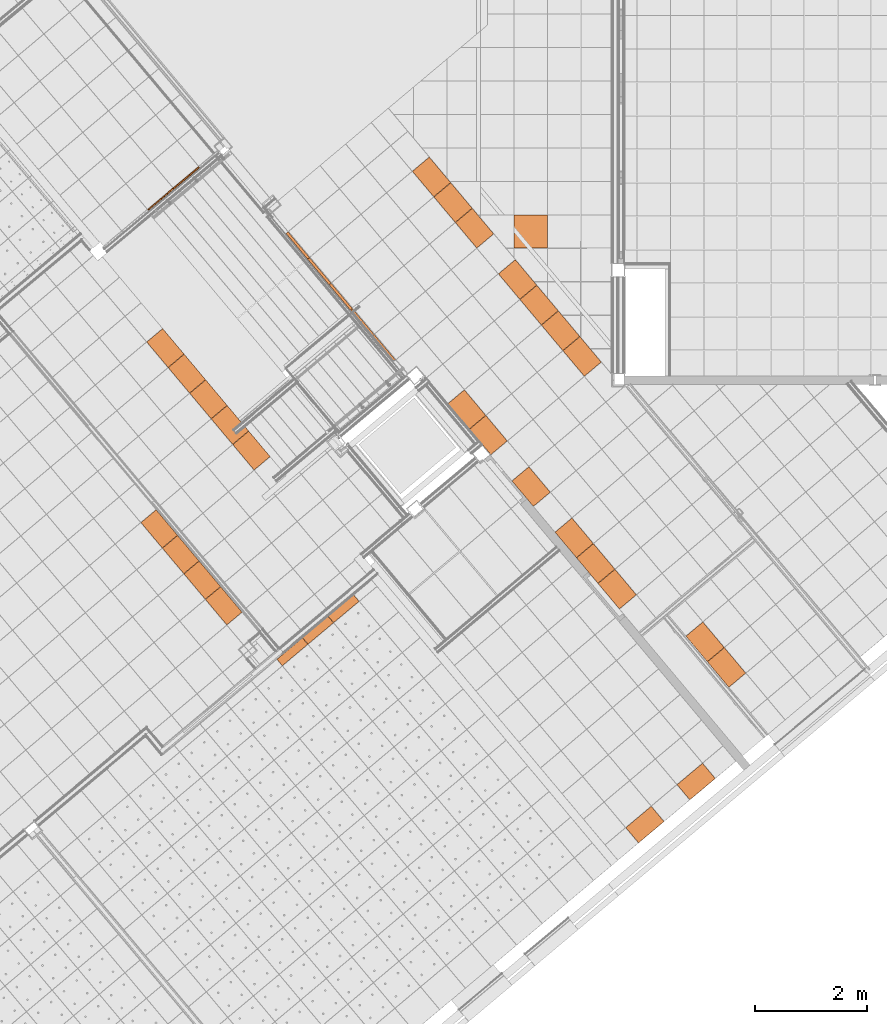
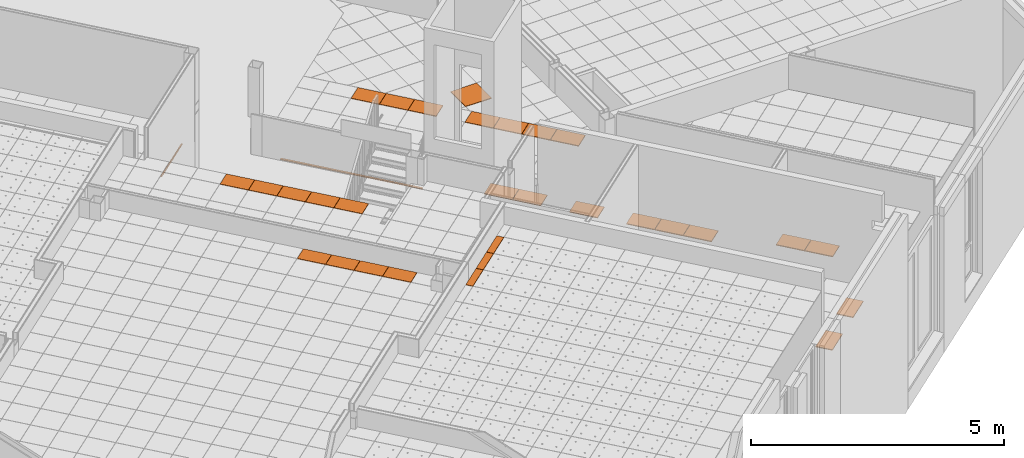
# One storey, part 214 of 338: 37 proxies, 8 elements without a shape of their own.
"""IFC2X3 building model written with IfcOpenShell, lengths in millimetres."""

from ifc_helpers import new_model, entity, si_unit, converted_unit, derived_unit, money_unit, direction, frame, origin_with_axes, place, context, subcontext, project, spatial, faceted_brep, source, transform, mapped, material, type_object, type_shapes, element, aggregate, save


model = new_model("IFC2X3")

# Units and contexts
model_context = context("Model", 3, precision=0.01, world=origin_with_axes(), true_north=direction((0.0, 1.0)))
plan_context = context("Plan", 3, precision=0.01, world=origin_with_axes(), true_north=direction((0.0, 1.0)))
body_context = subcontext(model_context, "Body", "Model", "MODEL_VIEW")
ifc_project = project(units=[si_unit("LENGTHUNIT", "METRE", prefix="MILLI"), si_unit("AREAUNIT", "SQUARE_METRE"), si_unit("VOLUMEUNIT", "CUBIC_METRE"), converted_unit("PLANEANGLEUNIT", "DEGREE", entity("IfcPlaneAngleMeasure", 0.0174532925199), si_unit("PLANEANGLEUNIT", "RADIAN"), dimensions=[0, 0, 0, 0, 0, 0, 0]), money_unit("EUR"), converted_unit("TIMEUNIT", "Year", entity("IfcTimeMeasure", 31556926.0), si_unit("TIMEUNIT", "SECOND"), dimensions=[0, 0, 1, 0, 0, 0, 0]), si_unit("MASSUNIT", "GRAM", prefix="KILO"), si_unit("THERMODYNAMICTEMPERATUREUNIT", "DEGREE_CELSIUS"), si_unit("LUMINOUSINTENSITYUNIT", "LUMEN"), si_unit("ENERGYUNIT", "JOULE", prefix="MEGA"), derived_unit("THERMALCONDUCTANCEUNIT", [(si_unit("POWERUNIT", "WATT"), 1), (si_unit("LENGTHUNIT", "METRE"), -1), (si_unit("THERMODYNAMICTEMPERATUREUNIT", "KELVIN"), -1)]), derived_unit("SPECIFICHEATCAPACITYUNIT", [(si_unit("ENERGYUNIT", "JOULE"), 1), (si_unit("MASSUNIT", "GRAM", prefix="KILO"), -1), (si_unit("THERMODYNAMICTEMPERATUREUNIT", "KELVIN"), -1)]), derived_unit("MASSDENSITYUNIT", [(si_unit("MASSUNIT", "GRAM", prefix="KILO"), 1), (si_unit("VOLUMEUNIT", "CUBIC_METRE"), -1)])], contexts=[model_context, plan_context])

# Site, building, storey
site_placement = place(None, origin_with_axes())
site = spatial("IfcSite", under=ifc_project, at=site_placement, Name="Fortuinstraat Woensdrecht", CompositionType="ELEMENT")
building_placement = place(site_placement, origin_with_axes())
building = spatial("IfcBuilding", under=site, at=building_placement, Name="IKC Fortuna", CompositionType="ELEMENT")
storey_placement = place(building_placement, origin_with_axes())
storey = spatial("IfcBuildingStorey", under=building, at=storey_placement, Name="00 begane grond", CompositionType="ELEMENT", Elevation=0.0)

# Covering, proxies
covering_type = type_object("IfcCoveringType", Name="Curtain Wall Type", PredefinedType="CEILING")
covering_1_placement = place(storey_placement, frame((17937.1227498, -4186.27868692, 4660.0), z_axis=(0.0, 0.0, 1.0), x_axis=(1.0, 0.0, 0.0)))
covering_1 = element("IfcCovering", 1, at=covering_1_placement, inside=storey, type_object=covering_type, Name="45_Plafondafwerking_P02", PredefinedType="CEILING")
ifc_material = material(Name="Gipsplaat")
building_element_proxy_type_1 = type_object("IfcBuildingElementProxyType", Name="Distinct Panel 360 x 600 x 20", PredefinedType="NOTDEFINED")
shared_shape_1 = source(origin_with_axes(), body_context, "Body", "Brep", [
    faceted_brep([(242.243727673, 2.50000936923, -10.0), (597.499997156, 2.50000349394, -10.0), (597.499997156, 2.50000349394, 10.0), (242.243727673, 2.50000936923, 10.0), (242.243731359, 597.499993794, -10.0), (597.500000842, 597.499987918, -10.0), (597.500000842, 597.499987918, 10.0), (242.243731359, 597.499993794, 10.0)], [[[0, 1, 2, 3]], [[0, 4, 5, 1]], [[1, 5, 6, 2]], [[3, 2, 6, 7]], [[4, 0, 3, 7]], [[5, 4, 7, 6]]]),
])
proxy_1_placement = place(covering_1_placement, frame((-551.233255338, 3270.74845323, 0.0), z_axis=(0.0, 0.0, 1.0), x_axis=(1.0, 0.0, 0.0)))
proxy_1 = element("IfcBuildingElementProxy", 2, at=proxy_1_placement, type_object=building_element_proxy_type_1, material=ifc_material, Name="__Panel-D", context=body_context, shape_type="MappedRepresentation", body=[
    mapped(shared_shape_1, transform((128.804099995, 499.70179874, 0.0), x_axis=(-0.766044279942, -0.642787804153, 0.0), y_axis=(0.642787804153, -0.766044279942, 0.0), z_axis=(0.0, 0.0, 1.0))),
])
shared_shape_2 = source(origin_with_axes(), body_context, "Body", "Brep", [
    faceted_brep([(242.243728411, 2.50000093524, -10.0), (597.500004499, 2.50000293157, -10.0), (597.500004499, 2.50000293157, 10.0), (242.243728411, 2.50000093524, 10.0), (242.243738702, 597.499993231, -10.0), (597.499992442, 597.500000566, -10.0), (597.499992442, 597.500000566, 10.0), (242.243738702, 597.499993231, 10.0)], [[[0, 1, 2, 3]], [[0, 4, 5, 1]], [[1, 5, 6, 2]], [[3, 2, 6, 7]], [[4, 0, 3, 7]], [[5, 4, 7, 6]]]),
])
proxy_2_placement = place(covering_1_placement, frame((-165.560572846, 2811.12188526, 0.0), z_axis=(0.0, 0.0, 1.0), x_axis=(1.0, 0.0, 0.0)))
proxy_2 = element("IfcBuildingElementProxy", 3, at=proxy_2_placement, type_object=building_element_proxy_type_1, material=ifc_material, Name="__Panel-D", context=body_context, shape_type="MappedRepresentation", body=[
    mapped(shared_shape_2, transform((128.804099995, 499.70179874, 0.0), x_axis=(-0.766044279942, -0.642787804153, 0.0), y_axis=(0.642787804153, -0.766044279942, 0.0), z_axis=(0.0, 0.0, 1.0))),
])
shared_shape_3 = source(origin_with_axes(), body_context, "Body", "Brep", [
    faceted_brep([(242.243725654, 2.49999764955, -10.0), (597.500001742, 2.49999964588, -10.0), (597.500001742, 2.49999964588, 10.0), (242.243725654, 2.49999764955, 10.0), (242.243728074, 597.499996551, -10.0), (597.499997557, 597.499990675, -10.0), (597.499997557, 597.499990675, 10.0), (242.243728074, 597.499996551, 10.0)], [[[0, 1, 2, 3]], [[0, 4, 5, 1]], [[1, 5, 6, 2]], [[3, 2, 6, 7]], [[4, 0, 3, 7]], [[5, 4, 7, 6]]]),
])
type_shapes(building_element_proxy_type_1, [shared_shape_1, shared_shape_2, shared_shape_3])
proxy_3_placement = place(covering_1_placement, frame((605.784792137, 1891.86874933, 0.0), z_axis=(0.0, 0.0, 1.0), x_axis=(1.0, 0.0, 0.0)))
proxy_3 = element("IfcBuildingElementProxy", 4, at=proxy_3_placement, type_object=building_element_proxy_type_1, material=ifc_material, Name="__Panel-D", context=body_context, shape_type="MappedRepresentation", body=[
    mapped(shared_shape_3, transform((128.804099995, 499.70179874, 0.0), x_axis=(-0.766044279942, -0.642787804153, 0.0), y_axis=(0.642787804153, -0.766044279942, 0.0), z_axis=(0.0, 0.0, 1.0))),
])
proxy_4_placement = place(covering_1_placement, frame((220.112109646, 2351.4953173, 0.0), z_axis=(0.0, 0.0, 1.0), x_axis=(1.0, 0.0, 0.0)))
proxy_4 = element("IfcBuildingElementProxy", 5, at=proxy_4_placement, type_object=building_element_proxy_type_1, material=ifc_material, Name="__Panel-D", context=body_context, shape_type="MappedRepresentation", body=[
    mapped(shared_shape_3, transform((128.804099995, 499.70179874, 0.0), x_axis=(-0.766044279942, -0.642787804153, 0.0), y_axis=(0.642787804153, -0.766044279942, 0.0), z_axis=(0.0, 0.0, 1.0))),
])
aggregate(covering_1, [proxy_2, proxy_3, proxy_4, proxy_1])

# Covering, proxy
covering_2_placement = place(storey_placement, frame((23508.1808374, 14013.4616156, 3010.0), z_axis=(0.0, 0.0, 1.0), x_axis=(1.0, 0.0, 0.0)))
covering_2 = element("IfcCovering", 6, at=covering_2_placement, inside=storey, type_object=covering_type, Name="45_Plafondafwerking_P04", PredefinedType="CEILING")
building_element_proxy_type_2 = type_object("IfcBuildingElementProxyType", Name="Distinct Panel 600 x 600 x 20", PredefinedType="NOTDEFINED")
shared_shape_4 = source(origin_with_axes(), body_context, "Body", "Brep", [
    faceted_brep([(-2.49999999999, 2.5, -10.0), (-2.49999999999, 2.5, 10.0), (-597.5, 2.49999999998, 10.0), (-597.5, 2.49999999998, -10.0), (-2.50000000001, 597.5, -10.0), (-2.50000000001, 597.5, 10.0), (-597.5, 597.5, 10.0), (-597.5, 597.5, -10.0)], [[[0, 1, 2, 3]], [[4, 5, 1, 0]], [[1, 5, 6, 2]], [[3, 2, 6, 7]], [[0, 3, 7, 4]], [[7, 6, 5, 4]]]),
])
type_shapes(building_element_proxy_type_2, [shared_shape_4])
proxy_5_placement = place(covering_2_placement, frame((536.745764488, -9600.0, 0.0), z_axis=(0.0, 0.0, 1.0), x_axis=(1.0, 0.0, 0.0)))
proxy_5 = element("IfcBuildingElementProxy", 7, at=proxy_5_placement, type_object=building_element_proxy_type_2, material=ifc_material, Name="__Panel-D", context=body_context, shape_type="MappedRepresentation", body=[
    mapped(shared_shape_4, transform((-300.0, 300.0, 0.0), x_axis=(-1.0, 0.0, 0.0), y_axis=(0.0, -1.0, 0.0), z_axis=(0.0, 0.0, 1.0))),
])
aggregate(covering_2, [proxy_5])

# Covering, proxies
covering_3_placement = place(storey_placement, frame((27661.2988988, -1812.1109843, 2810.0), z_axis=(0.0, 0.0, 1.0), x_axis=(1.0, 0.0, 0.0)))
covering_3 = element("IfcCovering", 8, at=covering_3_placement, inside=storey, type_object=covering_type, Name="45_Plafondafwerking_P02 gec", PredefinedType="CEILING")
building_element_proxy_type_3 = type_object("IfcBuildingElementProxyType", Name="Distinct Panel 400 x 600 x 20", PredefinedType="NOTDEFINED")
shared_shape_5 = source(origin_with_axes(), body_context, "Body", "Brep", [
    faceted_brep([(-597.500008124, 2.50000101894, -10.0), (-597.500008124, 2.50000101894, 10.0), (-597.499997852, 597.499992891, 10.0), (-597.499997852, 597.499992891, -10.0), (-202.482073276, 2.50000918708, -10.0), (-202.482073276, 2.50000918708, 10.0), (-202.48205484, 597.49999421, 10.0), (-202.48205484, 597.49999421, -10.0)], [[[0, 1, 2, 3]], [[4, 5, 1, 0]], [[1, 5, 6, 2]], [[3, 2, 6, 7]], [[0, 3, 7, 4]], [[7, 6, 5, 4]]]),
])
proxy_6_placement = place(covering_3_placement, frame((-490.086076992, -1127.24819046, 0.0), z_axis=(0.0, 0.0, 1.0), x_axis=(1.0, 0.0, 0.0)))
proxy_6 = element("IfcBuildingElementProxy", 9, at=proxy_6_placement, type_object=building_element_proxy_type_3, material=ifc_material, Name="__Panel-D", context=body_context, shape_type="MappedRepresentation", body=[
    mapped(shared_shape_5, transform((-499.247184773, -27.2960216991, 0.0), x_axis=(-0.766044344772, -0.642787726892, 0.0), y_axis=(0.642787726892, -0.766044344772, 0.0), z_axis=(0.0, 0.0, 1.0))),
])
proxy_7_placement = place(covering_3_placement, frame((-104.413444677, -1586.87480053, 0.0), z_axis=(0.0, 0.0, 1.0), x_axis=(1.0, 0.0, 0.0)))
proxy_7 = element("IfcBuildingElementProxy", 10, at=proxy_7_placement, type_object=building_element_proxy_type_3, material=ifc_material, Name="__Panel-D", context=body_context, shape_type="MappedRepresentation", body=[
    mapped(shared_shape_5, transform((-499.247180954, -27.2960184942, 0.0), x_axis=(-0.766044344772, -0.642787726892, 0.0), y_axis=(0.642787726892, -0.766044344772, 0.0), z_axis=(0.0, 0.0, 1.0))),
])
aggregate(covering_3, [proxy_6, proxy_7])

covering_4_placement = place(storey_placement, frame((26804.4884552, -1724.43837499, 3010.0), z_axis=(0.0, 0.0, 1.0), x_axis=(1.0, 0.0, 0.0)))
covering_4 = element("IfcCovering", 11, at=covering_4_placement, inside=storey, type_object=covering_type, Name="45_Plafondafwerking_P04", PredefinedType="CEILING")
shared_shape_6 = source(origin_with_axes(), body_context, "Body", "Brep", [
    faceted_brep([(597.50000446, 597.500001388, -10.0), (202.525693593, 597.499996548, -10.0), (202.525693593, 597.499996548, 10.0), (597.50000446, 597.500001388, 10.0), (597.499994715, 2.49999890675, -10.0), (202.525713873, 2.49999669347, -10.0), (202.525713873, 2.49999669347, 10.0), (597.499994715, 2.49999890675, 10.0)], [[[0, 1, 2, 3]], [[0, 4, 5, 1]], [[1, 5, 6, 2]], [[3, 2, 6, 7]], [[4, 0, 3, 7]], [[5, 4, 7, 6]]]),
])
proxy_8_placement = place(covering_4_placement, frame((-1208.64734708, -270.866258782, 0.0), z_axis=(0.0, 0.0, 1.0), x_axis=(1.0, 0.0, 0.0)))
proxy_8 = element("IfcBuildingElementProxy", 12, at=proxy_8_placement, type_object=building_element_proxy_type_3, material=ifc_material, Name="__Panel-D", context=body_context, shape_type="MappedRepresentation", body=[
    mapped(shared_shape_6, transform((-113.591415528, -486.93662178, 0.0), x_axis=(0.766044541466, 0.642787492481, 0.0), y_axis=(-0.642787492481, 0.766044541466, 0.0), z_axis=(0.0, 0.0, 1.0))),
])
proxy_9_placement = place(covering_4_placement, frame((-1979.99234045, 648.387188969, 0.0), z_axis=(0.0, 0.0, 1.0), x_axis=(1.0, 0.0, 0.0)))
proxy_9 = element("IfcBuildingElementProxy", 13, at=proxy_9_placement, type_object=building_element_proxy_type_3, material=ifc_material, Name="__Panel-D", context=body_context, shape_type="MappedRepresentation", body=[
    mapped(shared_shape_6, transform((-113.591413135, -486.936619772, 0.0), x_axis=(0.766044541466, 0.642787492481, 0.0), y_axis=(-0.642787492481, 0.766044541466, 0.0), z_axis=(0.0, 0.0, 1.0))),
])
proxy_10_placement = place(covering_4_placement, frame((-1594.31984496, 188.760464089, 0.0), z_axis=(0.0, 0.0, 1.0), x_axis=(1.0, 0.0, 0.0)))
proxy_10 = element("IfcBuildingElementProxy", 14, at=proxy_10_placement, type_object=building_element_proxy_type_3, material=ifc_material, Name="__Panel-D", context=body_context, shape_type="MappedRepresentation", body=[
    mapped(shared_shape_6, transform((-113.591413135, -486.936619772, 0.0), x_axis=(0.766044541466, 0.642787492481, 0.0), y_axis=(-0.642787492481, 0.766044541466, 0.0), z_axis=(0.0, 0.0, 1.0))),
])
proxy_11_placement = place(covering_4_placement, frame((-2751.33731089, 1567.64065595, 0.0), z_axis=(0.0, 0.0, 1.0), x_axis=(1.0, 0.0, 0.0)))
proxy_11 = element("IfcBuildingElementProxy", 15, at=proxy_11_placement, type_object=building_element_proxy_type_3, material=ifc_material, Name="__Panel-D", context=body_context, shape_type="MappedRepresentation", body=[
    mapped(shared_shape_6, transform((-113.591433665, -486.936636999, 0.0), x_axis=(0.766044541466, 0.642787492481, 0.0), y_axis=(-0.642787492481, 0.766044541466, 0.0), z_axis=(0.0, 0.0, 1.0))),
])
shared_shape_7 = source(origin_with_axes(), body_context, "Body", "Brep", [
    faceted_brep([(397.517959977, 597.499994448, -10.0), (2.49999497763, 597.500000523, -10.0), (2.49999497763, 597.500000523, 10.0), (397.517959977, 597.499994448, 10.0), (397.517917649, 2.50000161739, -10.0), (2.49999768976, 2.50001163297, -10.0), (2.49999768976, 2.50001163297, 10.0), (397.517917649, 2.50000161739, 10.0)], [[[0, 1, 2, 3]], [[0, 4, 5, 1]], [[1, 5, 6, 2]], [[3, 2, 6, 7]], [[4, 0, 3, 7]], [[5, 4, 7, 6]]]),
])
type_shapes(building_element_proxy_type_3, [shared_shape_5, shared_shape_6, shared_shape_7])
proxy_12_placement = place(covering_4_placement, frame((-4537.09477071, 7118.41115304, 0.0), z_axis=(0.0, 0.0, 1.0), x_axis=(1.0, 0.0, 0.0)))
proxy_12 = element("IfcBuildingElementProxy", 16, at=proxy_12_placement, type_object=building_element_proxy_type_3, material=ifc_material, Name="__Panel-D", context=body_context, shape_type="MappedRepresentation", body=[
    mapped(shared_shape_7, transform((39.6204662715, -358.376628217, 0.0), x_axis=(0.766044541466, 0.642787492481, 0.0), y_axis=(-0.642787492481, 0.766044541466, 0.0), z_axis=(0.0, 0.0, 1.0))),
])
proxy_13_placement = place(covering_4_placement, frame((-2994.40479597, 5279.90424747, 0.0), z_axis=(0.0, 0.0, 1.0), x_axis=(1.0, 0.0, 0.0)))
proxy_13 = element("IfcBuildingElementProxy", 17, at=proxy_13_placement, type_object=building_element_proxy_type_3, material=ifc_material, Name="__Panel-D", context=body_context, shape_type="MappedRepresentation", body=[
    mapped(shared_shape_7, transform((39.6204734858, -358.376622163, 0.0), x_axis=(0.766044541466, 0.642787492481, 0.0), y_axis=(-0.642787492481, 0.766044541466, 0.0), z_axis=(0.0, 0.0, 1.0))),
])
proxy_14_placement = place(covering_4_placement, frame((-4151.42228244, 6658.78442211, 0.0), z_axis=(0.0, 0.0, 1.0), x_axis=(1.0, 0.0, 0.0)))
proxy_14 = element("IfcBuildingElementProxy", 18, at=proxy_14_placement, type_object=building_element_proxy_type_3, material=ifc_material, Name="__Panel-D", context=body_context, shape_type="MappedRepresentation", body=[
    mapped(shared_shape_7, transform((39.6204734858, -358.376622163, 0.0), x_axis=(0.766044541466, 0.642787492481, 0.0), y_axis=(-0.642787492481, 0.766044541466, 0.0), z_axis=(0.0, 0.0, 1.0))),
])
proxy_15_placement = place(covering_4_placement, frame((-3765.74978695, 6199.15769723, 0.0), z_axis=(0.0, 0.0, 1.0), x_axis=(1.0, 0.0, 0.0)))
proxy_15 = element("IfcBuildingElementProxy", 19, at=proxy_15_placement, type_object=building_element_proxy_type_3, material=ifc_material, Name="__Panel-D", context=body_context, shape_type="MappedRepresentation", body=[
    mapped(shared_shape_7, transform((39.6204734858, -358.376622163, 0.0), x_axis=(0.766044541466, 0.642787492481, 0.0), y_axis=(-0.642787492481, 0.766044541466, 0.0), z_axis=(0.0, 0.0, 1.0))),
])
proxy_16_placement = place(covering_4_placement, frame((-2608.73230048, 4820.27752259, 0.0), z_axis=(0.0, 0.0, 1.0), x_axis=(1.0, 0.0, 0.0)))
proxy_16 = element("IfcBuildingElementProxy", 20, at=proxy_16_placement, type_object=building_element_proxy_type_3, material=ifc_material, Name="__Panel-D", context=body_context, shape_type="MappedRepresentation", body=[
    mapped(shared_shape_7, transform((39.6204734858, -358.376622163, 0.0), x_axis=(0.766044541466, 0.642787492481, 0.0), y_axis=(-0.642787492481, 0.766044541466, 0.0), z_axis=(0.0, 0.0, 1.0))),
])
proxy_17_placement = place(covering_4_placement, frame((-2223.05980499, 4360.65079771, 0.0), z_axis=(0.0, 0.0, 1.0), x_axis=(1.0, 0.0, 0.0)))
proxy_17 = element("IfcBuildingElementProxy", 21, at=proxy_17_placement, type_object=building_element_proxy_type_3, material=ifc_material, Name="__Panel-D", context=body_context, shape_type="MappedRepresentation", body=[
    mapped(shared_shape_7, transform((39.6204734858, -358.376622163, 0.0), x_axis=(0.766044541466, 0.642787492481, 0.0), y_axis=(-0.642787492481, 0.766044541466, 0.0), z_axis=(0.0, 0.0, 1.0))),
])
proxy_18_placement = place(covering_4_placement, frame((-1837.38730951, 3901.02407283, 0.0), z_axis=(0.0, 0.0, 1.0), x_axis=(1.0, 0.0, 0.0)))
proxy_18 = element("IfcBuildingElementProxy", 22, at=proxy_18_placement, type_object=building_element_proxy_type_3, material=ifc_material, Name="__Panel-D", context=body_context, shape_type="MappedRepresentation", body=[
    mapped(shared_shape_7, transform((39.6204734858, -358.376622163, 0.0), x_axis=(0.766044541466, 0.642787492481, 0.0), y_axis=(-0.642787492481, 0.766044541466, 0.0), z_axis=(0.0, 0.0, 1.0))),
])
building_element_proxy_type_4 = type_object("IfcBuildingElementProxyType", Name="Distinct Panel 387 x 600 x 20", PredefinedType="NOTDEFINED")
shared_shape_8 = source(origin_with_axes(), body_context, "Body", "Brep", [
    faceted_brep([(597.5000071, 597.500003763, -10.0), (215.01747785, 597.500013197, -10.0), (215.01747785, 597.500013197, 10.0), (597.5000071, 597.500003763, 10.0), (597.499993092, 2.49998908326, -10.0), (215.017471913, 2.4999917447, -10.0), (215.017471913, 2.4999917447, 10.0), (597.499993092, 2.49998908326, 10.0)], [[[0, 1, 2, 3]], [[0, 4, 5, 1]], [[1, 5, 6, 2]], [[3, 2, 6, 7]], [[4, 0, 3, 7]], [[5, 4, 7, 6]]]),
])
type_shapes(building_element_proxy_type_4, [shared_shape_8])
proxy_19_placement = place(covering_4_placement, frame((-3903.57018991, 2950.53559169, 0.0), z_axis=(0.0, 0.0, 1.0), x_axis=(1.0, 0.0, 0.0)))
proxy_19 = element("IfcBuildingElementProxy", 23, at=proxy_19_placement, type_object=building_element_proxy_type_4, material=ifc_material, Name="__Panel-D", context=body_context, shape_type="MappedRepresentation", body=[
    mapped(shared_shape_8, transform((-118.376041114, -490.951398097, 0.0), x_axis=(0.766044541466, 0.642787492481, 0.0), y_axis=(-0.642787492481, 0.766044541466, 0.0), z_axis=(0.0, 0.0, 1.0))),
])
proxy_20_placement = place(covering_4_placement, frame((-3517.89769441, 2490.90886682, 0.0), z_axis=(0.0, 0.0, 1.0), x_axis=(1.0, 0.0, 0.0)))
proxy_20 = element("IfcBuildingElementProxy", 24, at=proxy_20_placement, type_object=building_element_proxy_type_4, material=ifc_material, Name="__Panel-D", context=body_context, shape_type="MappedRepresentation", body=[
    mapped(shared_shape_8, transform((-118.376041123, -490.951398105, 0.0), x_axis=(0.766044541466, 0.642787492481, 0.0), y_axis=(-0.642787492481, 0.766044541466, 0.0), z_axis=(0.0, 0.0, 1.0))),
])
building_element_proxy_type_5 = type_object("IfcBuildingElementProxyType", Name="Distinct Panel 52 x 600 x 20", PredefinedType="NOTDEFINED")
shared_shape_9 = source(origin_with_axes(), body_context, "Body", "Brep", [
    faceted_brep([(597.499995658, 597.499999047, -10.0), (550.016865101, 597.500008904, -10.0), (550.016865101, 597.500008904, 10.0), (597.499995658, 597.499999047, 10.0), (597.499995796, 2.4999992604, -10.0), (550.016870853, 2.50000440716, -10.0), (550.016870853, 2.50000440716, 10.0), (597.499995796, 2.4999992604, 10.0)], [[[0, 1, 2, 3]], [[0, 4, 5, 1]], [[1, 5, 6, 2]], [[3, 2, 6, 7]], [[4, 0, 3, 7]], [[5, 4, 7, 6]]]),
])
proxy_21_placement = place(covering_4_placement, frame((-6548.91966217, 5430.29015317, 0.0), z_axis=(0.0, 0.0, 1.0), x_axis=(1.0, 0.0, 0.0)))
proxy_21 = element("IfcBuildingElementProxy", 25, at=proxy_21_placement, type_object=building_element_proxy_type_5, material=ifc_material, Name="__Panel-D", context=body_context, shape_type="MappedRepresentation", body=[
    mapped(shared_shape_9, transform((-246.688266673, -598.618105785, 0.0), x_axis=(0.766044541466, 0.642787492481, 0.0), y_axis=(-0.642787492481, 0.766044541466, 0.0), z_axis=(0.0, 0.0, 1.0))),
])
proxy_22_placement = place(covering_4_placement, frame((-6934.59215765, 5889.91687805, 0.0), z_axis=(0.0, 0.0, 1.0), x_axis=(1.0, 0.0, 0.0)))
proxy_22 = element("IfcBuildingElementProxy", 26, at=proxy_22_placement, type_object=building_element_proxy_type_5, material=ifc_material, Name="__Panel-D", context=body_context, shape_type="MappedRepresentation", body=[
    mapped(shared_shape_9, transform((-246.688266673, -598.618105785, 0.0), x_axis=(0.766044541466, 0.642787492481, 0.0), y_axis=(-0.642787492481, 0.766044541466, 0.0), z_axis=(0.0, 0.0, 1.0))),
])
shared_shape_10 = source(origin_with_axes(), body_context, "Body", "Brep", [
    faceted_brep([(597.500001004, 597.499997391, -10.0), (550.016864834, 597.500011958, -10.0), (550.016864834, 597.500011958, 10.0), (597.500001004, 597.499997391, 10.0), (597.500001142, 2.49999760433, -10.0), (550.016861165, 2.49999623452, -10.0), (550.016861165, 2.49999623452, 10.0), (597.500001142, 2.49999760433, 10.0)], [[[0, 1, 2, 3]], [[0, 4, 5, 1]], [[1, 5, 6, 2]], [[3, 2, 6, 7]], [[4, 0, 3, 7]], [[5, 4, 7, 6]]]),
])
type_shapes(building_element_proxy_type_5, [shared_shape_9, shared_shape_10])
proxy_23_placement = place(covering_4_placement, frame((-5391.9021757, 4051.40997853, 0.0), z_axis=(0.0, 0.0, 1.0), x_axis=(1.0, 0.0, 0.0)))
proxy_23 = element("IfcBuildingElementProxy", 27, at=proxy_23_placement, type_object=building_element_proxy_type_5, material=ifc_material, Name="__Panel-D", context=body_context, shape_type="MappedRepresentation", body=[
    mapped(shared_shape_10, transform((-246.688266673, -598.618105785, 0.0), x_axis=(0.766044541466, 0.642787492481, 0.0), y_axis=(-0.642787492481, 0.766044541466, 0.0), z_axis=(0.0, 0.0, 1.0))),
])
proxy_24_placement = place(covering_4_placement, frame((-5777.57467119, 4511.03670341, 0.0), z_axis=(0.0, 0.0, 1.0), x_axis=(1.0, 0.0, 0.0)))
proxy_24 = element("IfcBuildingElementProxy", 28, at=proxy_24_placement, type_object=building_element_proxy_type_5, material=ifc_material, Name="__Panel-D", context=body_context, shape_type="MappedRepresentation", body=[
    mapped(shared_shape_10, transform((-246.688266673, -598.618105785, 0.0), x_axis=(0.766044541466, 0.642787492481, 0.0), y_axis=(-0.642787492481, 0.766044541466, 0.0), z_axis=(0.0, 0.0, 1.0))),
])
proxy_25_placement = place(covering_4_placement, frame((-6163.24716668, 4970.66342829, 0.0), z_axis=(0.0, 0.0, 1.0), x_axis=(1.0, 0.0, 0.0)))
proxy_25 = element("IfcBuildingElementProxy", 29, at=proxy_25_placement, type_object=building_element_proxy_type_5, material=ifc_material, Name="__Panel-D", context=body_context, shape_type="MappedRepresentation", body=[
    mapped(shared_shape_10, transform((-246.688266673, -598.618105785, 0.0), x_axis=(0.766044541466, 0.642787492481, 0.0), y_axis=(-0.642787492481, 0.766044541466, 0.0), z_axis=(0.0, 0.0, 1.0))),
])
aggregate(covering_4, [proxy_8, proxy_12, proxy_9, proxy_10, proxy_13, proxy_11, proxy_14, proxy_15, proxy_16, proxy_17, proxy_18, proxy_19, proxy_21, proxy_20, proxy_23, proxy_24, proxy_25, proxy_22])

covering_5_placement = place(storey_placement, frame((15581.2998521, 5435.5548951, 3210.0), z_axis=(0.0, 0.0, 1.0), x_axis=(1.0, 0.0, 0.0)))
covering_5 = element("IfcCovering", 30, at=covering_5_placement, inside=storey, type_object=covering_type, Name="45_Plafondafwerking_P02 v", PredefinedType="CEILING")
building_element_proxy_type_6 = type_object("IfcBuildingElementProxyType", Name="Distinct Panel 600 x 30 x 20", PredefinedType="NOTDEFINED")
shared_shape_11 = source(origin_with_axes(), body_context, "Body", "Brep", [
    faceted_brep([(-597.500005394, 2.49999903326, -10.0), (-597.500005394, 2.49999903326, 10.0), (-597.500008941, 27.4101366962, 10.0), (-597.500008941, 27.4101366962, -10.0), (-2.499999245, 2.49998852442, -10.0), (-2.499999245, 2.49998852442, 10.0), (-2.49999822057, 27.4101316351, 10.0), (-2.49999822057, 27.4101316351, -10.0)], [[[0, 1, 2, 3]], [[4, 5, 1, 0]], [[1, 5, 6, 2]], [[3, 2, 6, 7]], [[0, 3, 7, 4]], [[7, 6, 5, 4]]]),
])
type_shapes(building_element_proxy_type_6, [shared_shape_11])
proxy_26_placement = place(covering_5_placement, frame((2291.29502767, -55.0082314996, 0.0), z_axis=(0.0, 0.0, 1.0), x_axis=(1.0, 0.0, 0.0)))
proxy_26 = element("IfcBuildingElementProxy", 31, at=proxy_26_placement, type_object=building_element_proxy_type_6, material=ifc_material, Name="__Panel-D", context=body_context, shape_type="MappedRepresentation", body=[
    mapped(shared_shape_11, transform((-239.426237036, -181.380073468, 0.0), x_axis=(-0.766044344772, -0.642787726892, 0.0), y_axis=(0.642787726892, -0.766044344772, 0.0), z_axis=(0.0, 0.0, 1.0))),
])
proxy_27_placement = place(covering_5_placement, frame((1831.6684208, -440.680867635, 0.0), z_axis=(0.0, 0.0, 1.0), x_axis=(1.0, 0.0, 0.0)))
proxy_27 = element("IfcBuildingElementProxy", 32, at=proxy_27_placement, type_object=building_element_proxy_type_6, material=ifc_material, Name="__Panel-D", context=body_context, shape_type="MappedRepresentation", body=[
    mapped(shared_shape_11, transform((-239.426237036, -181.380073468, 0.0), x_axis=(-0.766044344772, -0.642787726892, 0.0), y_axis=(0.642787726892, -0.766044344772, 0.0), z_axis=(0.0, 0.0, 1.0))),
])
aggregate(covering_5, [proxy_26, proxy_27])

covering_6_placement = place(storey_placement, frame((19785.7448517, -11392.5753808, 4660.0), z_axis=(0.0, 0.0, 1.0), x_axis=(1.0, 0.0, 0.0)))
covering_6 = element("IfcCovering", 33, at=covering_6_placement, inside=storey, type_object=covering_type, Name="45_Plafondafwerking_P01", PredefinedType="CEILING")
building_element_proxy_type_7 = type_object("IfcBuildingElementProxyType", Name="600 x 155 x 20", PredefinedType="NOTDEFINED")
shared_shape_12 = source(origin_with_axes(), body_context, "Body", "Brep", [
    faceted_brep([(2.50000160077, 447.501420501, -10.0), (597.499995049, 447.501420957, -10.0), (597.499995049, 447.501420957, 10.0), (2.50000160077, 447.501420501, 10.0), (2.50000666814, 597.500000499, -10.0), (597.500000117, 597.500000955, -10.0), (597.500000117, 597.500000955, 10.0), (2.50000666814, 597.500000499, 10.0)], [[[0, 1, 2, 3]], [[0, 4, 5, 1]], [[1, 5, 6, 2]], [[3, 2, 6, 7]], [[4, 0, 3, 7]], [[5, 4, 7, 6]]]),
])
type_shapes(building_element_proxy_type_7, [shared_shape_12])
proxy_28_placement = place(covering_6_placement, frame((-12.5554565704, 8273.90851459, 0.0), z_axis=(0.0, 0.0, 1.0), x_axis=(1.0, 0.0, 0.0)))
proxy_28 = element("IfcBuildingElementProxy", 34, at=proxy_28_placement, type_object=building_element_proxy_type_7, material=ifc_material, Name="__600x627 Rockfon Krios", context=body_context, shape_type="MappedRepresentation", body=[
    mapped(shared_shape_12, transform((-106.043798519, 593.095019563, 0.0), x_axis=(-0.766044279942, -0.642787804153, 0.0), y_axis=(0.642787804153, -0.766044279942, 0.0), z_axis=(0.0, 0.0, 1.0))),
])
proxy_29_placement = place(covering_6_placement, frame((906.69767936, 9045.25387958, 0.0), z_axis=(0.0, 0.0, 1.0), x_axis=(1.0, 0.0, 0.0)))
proxy_29 = element("IfcBuildingElementProxy", 35, at=proxy_29_placement, type_object=building_element_proxy_type_7, material=ifc_material, Name="__600x636 Rockfon Krios", context=body_context, shape_type="MappedRepresentation", body=[
    mapped(shared_shape_12, transform((-106.043798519, 593.095019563, 0.0), x_axis=(-0.766044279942, -0.642787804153, 0.0), y_axis=(0.642787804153, -0.766044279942, 0.0), z_axis=(0.0, 0.0, 1.0))),
])
proxy_30_placement = place(covering_6_placement, frame((447.071111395, 8659.58119708, 0.0), z_axis=(0.0, 0.0, 1.0), x_axis=(1.0, 0.0, 0.0)))
proxy_30 = element("IfcBuildingElementProxy", 36, at=proxy_30_placement, type_object=building_element_proxy_type_7, material=ifc_material, Name="__600x646 Rockfon Krios", context=body_context, shape_type="MappedRepresentation", body=[
    mapped(shared_shape_12, transform((-106.043798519, 593.095019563, 0.0), x_axis=(-0.766044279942, -0.642787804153, 0.0), y_axis=(0.642787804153, -0.766044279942, 0.0), z_axis=(0.0, 0.0, 1.0))),
])
aggregate(covering_6, [proxy_28, proxy_29, proxy_30])

covering_7_placement = place(storey_placement, frame((23826.4460301, -4357.43121765, 2810.0), z_axis=(0.0, 0.0, 1.0), x_axis=(1.0, 0.0, 0.0)))
covering_7 = element("IfcCovering", 37, at=covering_7_placement, inside=storey, type_object=covering_type, Name="45_Plafondafwerking_P02", PredefinedType="CEILING")
building_element_proxy_type_8 = type_object("IfcBuildingElementProxyType", Name="Distinct Panel 600 x 361 x 20", PredefinedType="NOTDEFINED")
shared_shape_13 = source(origin_with_axes(), body_context, "Body", "Brep", [
    faceted_brep([(2.49999782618, 2.49999313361, -10.0), (597.499986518, 2.50000285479, -10.0), (597.499986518, 2.50000285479, 10.0), (2.49999782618, 2.49999313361, 10.0), (2.49999973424, 358.169679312, -10.0), (597.499996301, 358.169682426, -10.0), (597.499996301, 358.169682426, 10.0), (2.49999973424, 358.169679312, 10.0)], [[[0, 1, 2, 3]], [[0, 4, 5, 1]], [[1, 5, 6, 2]], [[3, 2, 6, 7]], [[4, 0, 3, 7]], [[5, 4, 7, 6]]]),
])
type_shapes(building_element_proxy_type_8, [shared_shape_13])
proxy_31_placement = place(covering_7_placement, frame((2266.0373989, -1858.57876936, 0.0), z_axis=(0.0, 0.0, 1.0), x_axis=(1.0, 0.0, 0.0)))
proxy_31 = element("IfcBuildingElementProxy", 38, at=proxy_31_placement, type_object=building_element_proxy_type_8, material=ifc_material, Name="__Panel-D", context=body_context, shape_type="MappedRepresentation", body=[
    mapped(shared_shape_13, transform((113.8962489, 330.980813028, 0.0), x_axis=(-0.766044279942, -0.642787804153, 0.0), y_axis=(0.642787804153, -0.766044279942, 0.0), z_axis=(0.0, 0.0, 1.0))),
])
proxy_32_placement = place(covering_7_placement, frame((3185.29053484, -1087.23340437, 0.0), z_axis=(0.0, 0.0, 1.0), x_axis=(1.0, 0.0, 0.0)))
proxy_32 = element("IfcBuildingElementProxy", 39, at=proxy_32_placement, type_object=building_element_proxy_type_8, material=ifc_material, Name="__Panel-D", context=body_context, shape_type="MappedRepresentation", body=[
    mapped(shared_shape_13, transform((113.8962489, 330.980813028, 0.0), x_axis=(-0.766044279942, -0.642787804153, 0.0), y_axis=(0.642787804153, -0.766044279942, 0.0), z_axis=(0.0, 0.0, 1.0))),
])
aggregate(covering_7, [proxy_31, proxy_32])

covering_8_placement = place(storey_placement, frame((19821.8074512, -1204.73183435, 4460.0), z_axis=(0.0, 0.0, 1.0), x_axis=(1.0, 0.0, 0.0)))
covering_8 = element("IfcCovering", 40, at=covering_8_placement, inside=storey, type_object=covering_type, Name="45_Plafondafwerking_P04", PredefinedType="CEILING")
building_element_proxy_type_9 = type_object("IfcBuildingElementProxyType", Name="Distinct Panel 378 x 600 x 20", PredefinedType="NOTDEFINED")
shared_shape_14 = source(origin_with_axes(), body_context, "Body", "Brep", [
    faceted_brep([(-375.502349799, 2.49998639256, -10.0), (-375.502349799, 2.49998639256, 10.0), (-375.502361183, 597.500003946, 10.0), (-375.502361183, 597.500003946, -10.0), (-2.50000103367, 2.50000271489, -10.0), (-2.50000103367, 2.50000271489, 10.0), (-2.49999641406, 597.50000684, 10.0), (-2.49999641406, 597.50000684, -10.0)], [[[0, 1, 2, 3]], [[4, 5, 1, 0]], [[1, 5, 6, 2]], [[3, 2, 6, 7]], [[0, 3, 7, 4]], [[7, 6, 5, 4]]]),
])
proxy_33_placement = place(covering_8_placement, frame((-2325.11186574, 3531.71020388, 0.0), z_axis=(0.0, 0.0, 1.0), x_axis=(1.0, 0.0, 0.0)))
proxy_33 = element("IfcBuildingElementProxy", 41, at=proxy_33_placement, type_object=building_element_proxy_type_9, material=ifc_material, Name="__Panel-D", context=body_context, shape_type="MappedRepresentation", body=[
    mapped(shared_shape_14, transform((-337.619601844, 108.325665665, 0.0), x_axis=(-0.766044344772, -0.642787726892, 0.0), y_axis=(0.642787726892, -0.766044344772, 0.0), z_axis=(0.0, 0.0, 1.0))),
])
proxy_34_placement = place(covering_8_placement, frame((-1553.76659347, 2612.45699015, 0.0), z_axis=(0.0, 0.0, 1.0), x_axis=(1.0, 0.0, 0.0)))
proxy_34 = element("IfcBuildingElementProxy", 42, at=proxy_34_placement, type_object=building_element_proxy_type_9, material=ifc_material, Name="__Panel-D", context=body_context, shape_type="MappedRepresentation", body=[
    mapped(shared_shape_14, transform((-337.619601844, 108.325665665, 0.0), x_axis=(-0.766044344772, -0.642787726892, 0.0), y_axis=(0.642787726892, -0.766044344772, 0.0), z_axis=(0.0, 0.0, 1.0))),
])
proxy_35_placement = place(covering_8_placement, frame((-1168.09395733, 2152.83038329, 0.0), z_axis=(0.0, 0.0, 1.0), x_axis=(1.0, 0.0, 0.0)))
proxy_35 = element("IfcBuildingElementProxy", 43, at=proxy_35_placement, type_object=building_element_proxy_type_9, material=ifc_material, Name="__Panel-D", context=body_context, shape_type="MappedRepresentation", body=[
    mapped(shared_shape_14, transform((-337.619601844, 108.325665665, 0.0), x_axis=(-0.766044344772, -0.642787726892, 0.0), y_axis=(0.642787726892, -0.766044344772, 0.0), z_axis=(0.0, 0.0, 1.0))),
])
shared_shape_15 = source(origin_with_axes(), body_context, "Body", "Brep", [
    faceted_brep([(-375.502351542, 2.49998784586, -10.0), (-375.502351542, 2.49998784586, 10.0), (-375.502369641, 597.499996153, 10.0), (-375.502369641, 597.499996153, -10.0), (-2.50000355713, 2.50000416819, -10.0), (-2.50000355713, 2.50000416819, 10.0), (-2.50000565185, 597.499999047, 10.0), (-2.50000565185, 597.499999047, -10.0)], [[[0, 1, 2, 3]], [[4, 5, 1, 0]], [[1, 5, 6, 2]], [[3, 2, 6, 7]], [[0, 3, 7, 4]], [[7, 6, 5, 4]]]),
])
type_shapes(building_element_proxy_type_9, [shared_shape_14, shared_shape_15])
proxy_36_placement = place(covering_8_placement, frame((-1939.4392296, 3072.08359701, 0.0), z_axis=(0.0, 0.0, 1.0), x_axis=(1.0, 0.0, 0.0)))
proxy_36 = element("IfcBuildingElementProxy", 44, at=proxy_36_placement, type_object=building_element_proxy_type_9, material=ifc_material, Name="__Panel-D", context=body_context, shape_type="MappedRepresentation", body=[
    mapped(shared_shape_15, transform((-337.619601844, 108.325665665, 0.0), x_axis=(-0.766044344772, -0.642787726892, 0.0), y_axis=(0.642787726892, -0.766044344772, 0.0), z_axis=(0.0, 0.0, 1.0))),
])
proxy_37_placement = place(covering_8_placement, frame((-782.421321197, 1693.20377642, 0.0), z_axis=(0.0, 0.0, 1.0), x_axis=(1.0, 0.0, 0.0)))
proxy_37 = element("IfcBuildingElementProxy", 45, at=proxy_37_placement, type_object=building_element_proxy_type_9, material=ifc_material, Name="__Panel-D", context=body_context, shape_type="MappedRepresentation", body=[
    mapped(shared_shape_15, transform((-337.619601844, 108.325665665, 0.0), x_axis=(-0.766044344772, -0.642787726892, 0.0), y_axis=(0.642787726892, -0.766044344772, 0.0), z_axis=(0.0, 0.0, 1.0))),
])
aggregate(covering_8, [proxy_33, proxy_34, proxy_35, proxy_36, proxy_37])

save(model, "model.ifc")
